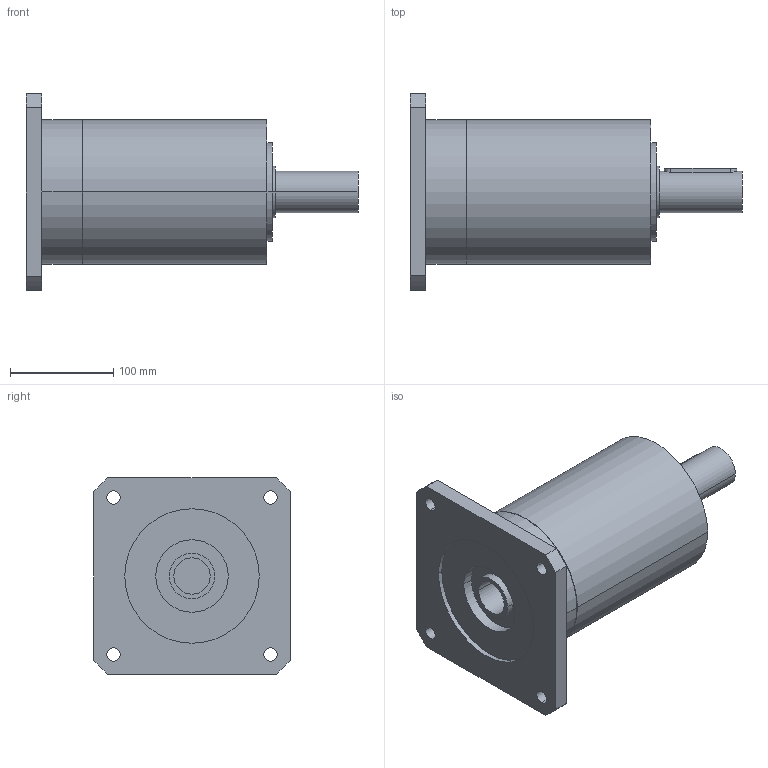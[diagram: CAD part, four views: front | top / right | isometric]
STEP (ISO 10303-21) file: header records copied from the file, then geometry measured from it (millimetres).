
FILE_DESCRIPTION(('CoCreate Modeling STEP Export'),'2;1');
FILE_NAME('GPR150_ig-9-12-16-20-28-35_40_B14_35_P13.stp','2014-08-19T17:04:21',(''),(''),'CoCreate Modeling STEP processor for AP214 (Solid Model)','CoCreate Modeling 16.00C 25-Feb-2009 (C) Parametric Technology GmbH','');
FILE_SCHEMA(('AUTOMOTIVE_DESIGN { 1 0 10303 214 1 1 1 1 }'));
Length unit declared in the file: millimetre
Products named in the file (2): GPR150_ig-9-12-16-20-28-35_40_B14_35_P13
Assembly tree (1 placements, depth 2):
  GPR150_ig-9-12-16-20-28-35_40_B14_35_P13
    GPR150_ig-9-12-16-20-28-35_40_B14_35_P13
Bounding box: 321 x 190 x 190 mm (x, y, z)
Volume: 3852380.3 mm3; surface area: 211344.9 mm2
Topology: 1 solids, 1 shells, 70 faces, 189 edges, 133 vertices
Faces by surface type: cylinder 42, plane 22, cone 6
Entity records: 1968 total; most frequent: CARTESIAN_POINT 385, ORIENTED_EDGE 374, DIRECTION 262, EDGE_CURVE 187, VERTEX_POINT 133, AXIS2_PLACEMENT_3D 98, EDGE_LOOP 92, FACE_OUTER_BOUND 70
